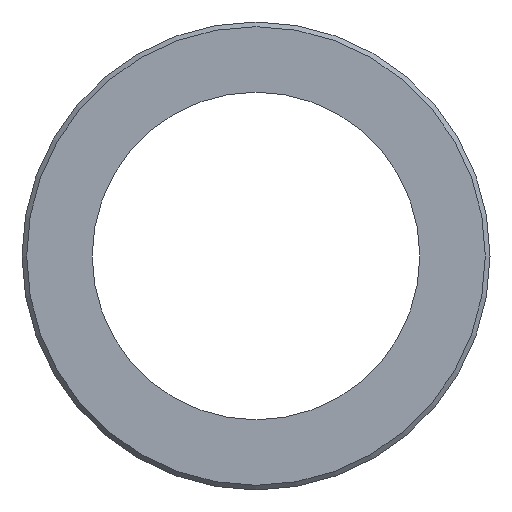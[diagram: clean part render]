
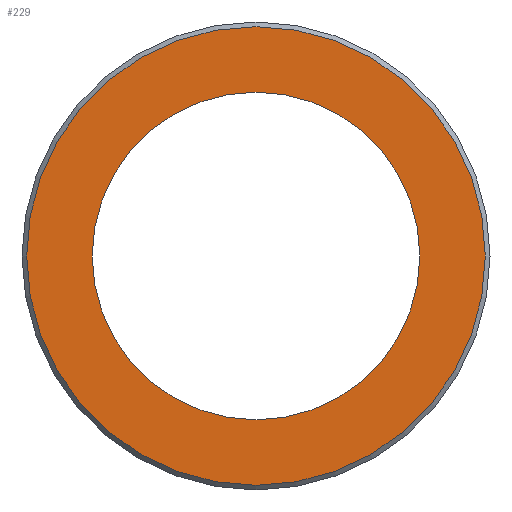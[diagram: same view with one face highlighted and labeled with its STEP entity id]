
A CAD part, left-side view. The second image highlights one B-rep face of the part: STEP entity #229.
In plain terms, the highlighted planar face has unit normal (-1, 0, 0).
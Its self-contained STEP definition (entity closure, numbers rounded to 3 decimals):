
#16=PLANE('',#257);
#32=FACE_BOUND('',#79,.T.);
#53=FACE_OUTER_BOUND('',#78,.T.);
#78=EDGE_LOOP('',(#183));
#79=EDGE_LOOP('',(#184));
#116=CIRCLE('',#256,30.87);
#117=CIRCLE('',#258,22.05);
#137=VERTEX_POINT('',#389);
#138=VERTEX_POINT('',#392);
#158=EDGE_CURVE('',#137,#137,#116,.T.);
#159=EDGE_CURVE('',#138,#138,#117,.T.);
#183=ORIENTED_EDGE('',*,*,#158,.F.);
#184=ORIENTED_EDGE('',*,*,#159,.F.);
#229=ADVANCED_FACE('',(#53,#32),#16,.T.);
#256=AXIS2_PLACEMENT_3D('',#390,#308,#309);
#257=AXIS2_PLACEMENT_3D('',#391,#310,#311);
#258=AXIS2_PLACEMENT_3D('',#393,#312,#313);
#308=DIRECTION('center_axis',(1.,0.,0.));
#309=DIRECTION('ref_axis',(0.,1.,0.));
#310=DIRECTION('center_axis',(-1.,0.,0.));
#311=DIRECTION('ref_axis',(0.,0.,1.));
#312=DIRECTION('center_axis',(-1.,0.,0.));
#313=DIRECTION('ref_axis',(0.,0.,1.));
#389=CARTESIAN_POINT('',(0.,-30.87,0.));
#390=CARTESIAN_POINT('Origin',(0.,0.,0.));
#391=CARTESIAN_POINT('Origin',(0.,-22.05,0.));
#392=CARTESIAN_POINT('',(0.,-22.05,0.));
#393=CARTESIAN_POINT('Origin',(0.,0.,0.));
